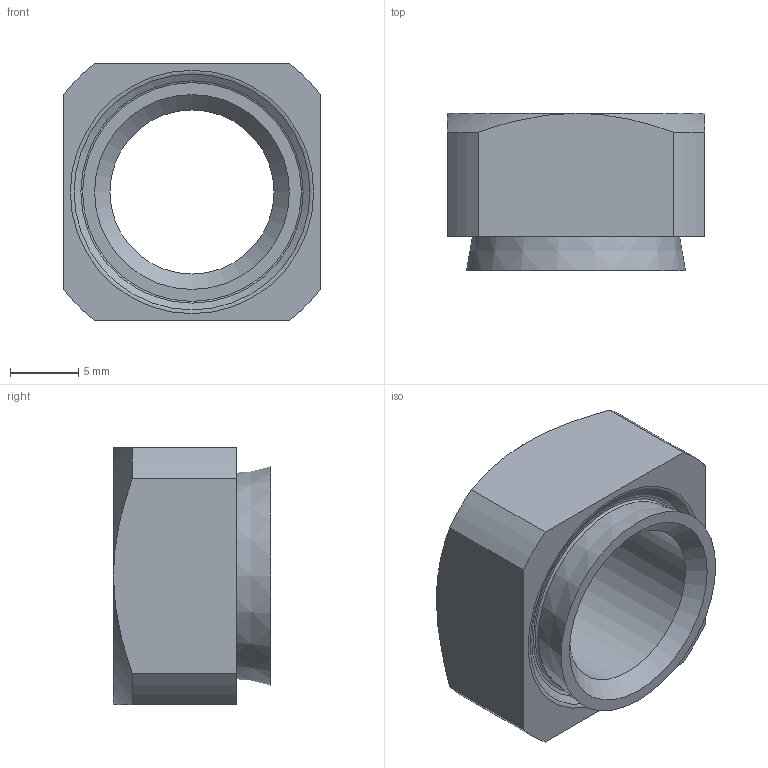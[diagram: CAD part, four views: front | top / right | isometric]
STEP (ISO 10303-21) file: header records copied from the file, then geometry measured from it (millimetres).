
FILE_DESCRIPTION(/* description */ (''),/* implementation_level */ '2;1');
FILE_NAME(/* name */ 'D:\Sukhmani\Fastit\HN Nut\HN 12-3.0.stp',/* time_stamp */ '2024-03-14T12:22:08+06:00',/* author */ ('edc.sukhmani'),/* organization */ (''),/* preprocessor_version */ 'ST-DEVELOPER v18.1',/* originating_system */ 'Autodesk Inventor 2022',/* authorisation */ '');
FILE_SCHEMA (('AUTOMOTIVE_DESIGN { 1 0 10303 214 3 1 1 }'));
Length unit declared in the file: millimetre
Products named in the file (1): HN 12-3.0
Bounding box: 18.8 x 11.5 x 18.8 mm (x, y, z)
Volume: 2151.8 mm3; surface area: 1620.6 mm2
Topology: 1 solids, 1 shells, 25 faces, 58 edges, 37 vertices
Faces by surface type: cone 8, plane 8, cylinder 6, torus 3
Full cylindrical faces by diameter (mm): 12 x1, 14.25 x1
Entity records: 763 total; most frequent: CARTESIAN_POINT 137, DIRECTION 134, ORIENTED_EDGE 116, EDGE_CURVE 58, AXIS2_PLACEMENT_3D 58, VERTEX_POINT 37, CIRCLE 32, EDGE_LOOP 29
